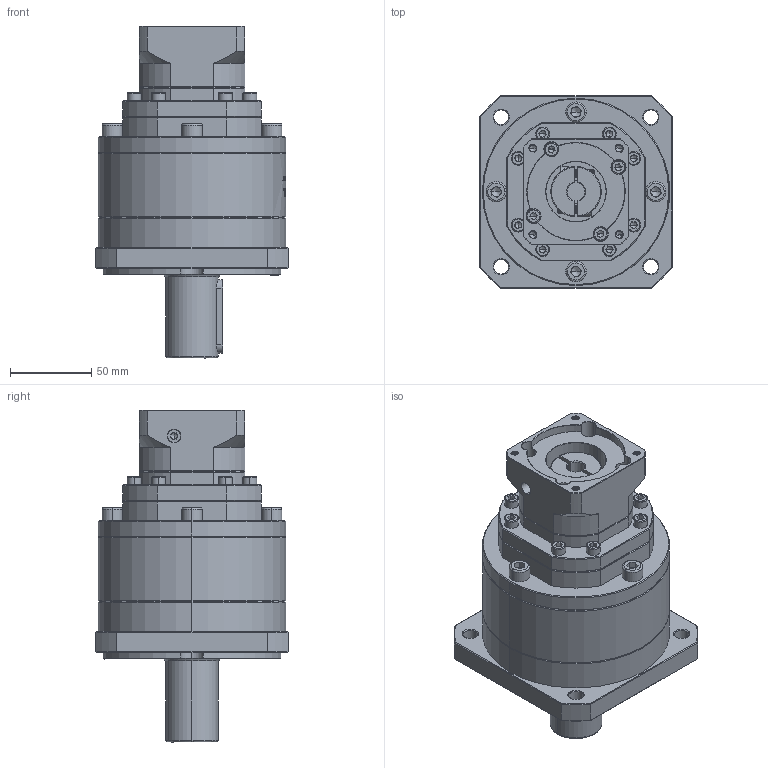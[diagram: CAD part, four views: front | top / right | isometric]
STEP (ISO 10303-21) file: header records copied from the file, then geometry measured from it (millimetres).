
FILE_DESCRIPTION (( 'STEP AP214' ), '1' );
FILE_NAME ('ZF120A-D32-L3-11-60-75-M5.step', '2023-03-07T15:55:39', ( '' ), ( 'Microsoft' ), 'SwSTEP 2.0', 'SolidWorks 2016', '' );
FILE_SCHEMA (( 'AUTOMOTIVE_DESIGN' ));
Length unit declared in the file: millimetre
Products named in the file (1): ZF120A-D32-L3-11-60-75-M5
Bounding box: 118 x 118 x 204 mm (x, y, z)
Volume: 1222399.3 mm3; surface area: 116906.8 mm2
Topology: 7 solids, 7 shells, 2091 faces, 5506 edges, 3514 vertices
Faces by surface type: plane 1002, cylinder 426, bspline 337, cone 304, torus 22
Entity records: 110359 total; most frequent: CARTESIAN_POINT 39474, ORIENTED_EDGE 10904, DIRECTION 8643, EDGE_CURVE 5452, VERTEX_POINT 3514, LINE 2989, VECTOR 2989, AXIS2_PLACEMENT_3D 2827
